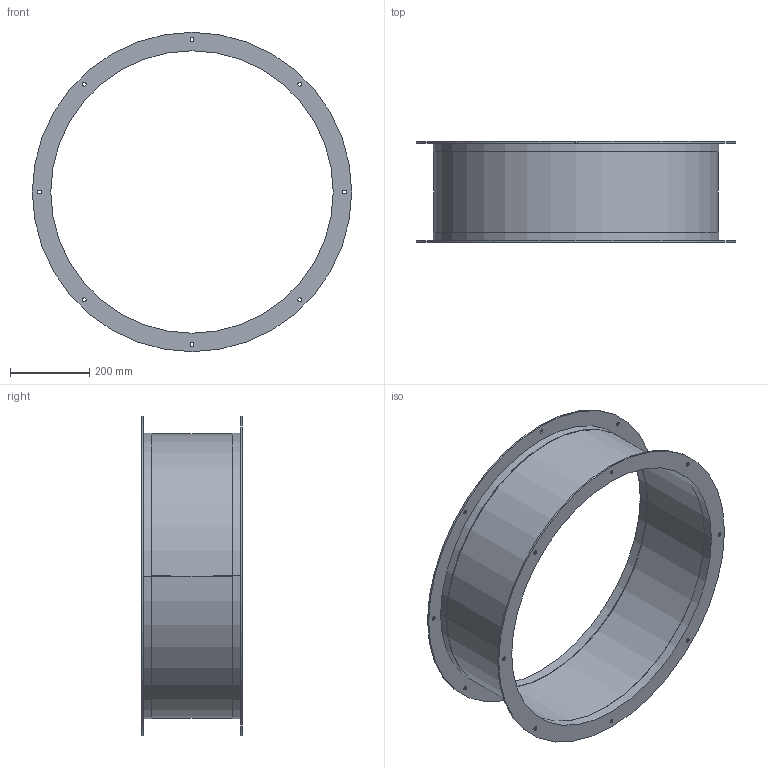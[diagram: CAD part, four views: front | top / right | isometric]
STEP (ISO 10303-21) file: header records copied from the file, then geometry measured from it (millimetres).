
FILE_DESCRIPTION(('STEP AP214'),'1');
FILE_NAME('accessory_5136837100.stp','2017-10-04T07:23:01',('TraceParts'),('TraceParts S.A.'),'Spatial InterOp 3D',' ',' ');
FILE_SCHEMA(('automotive_design'));
Length unit declared in the file: millimetre
Products named in the file (1): accessory_5136837100
Bounding box: 806 x 254 x 806 mm (x, y, z)
Volume: 2180032.8 mm3; surface area: 1580708.1 mm2
Topology: 1 solids, 1 shells, 56 faces, 144 edges, 96 vertices
Faces by surface type: cylinder 48, plane 8
Entity records: 2296 total; most frequent: DIRECTION 354, CARTESIAN_POINT 297, ORIENTED_EDGE 288, AXIS2_PLACEMENT_3D 153, EDGE_CURVE 144, EDGE_LOOP 96, VERTEX_POINT 96, CIRCLE 96
